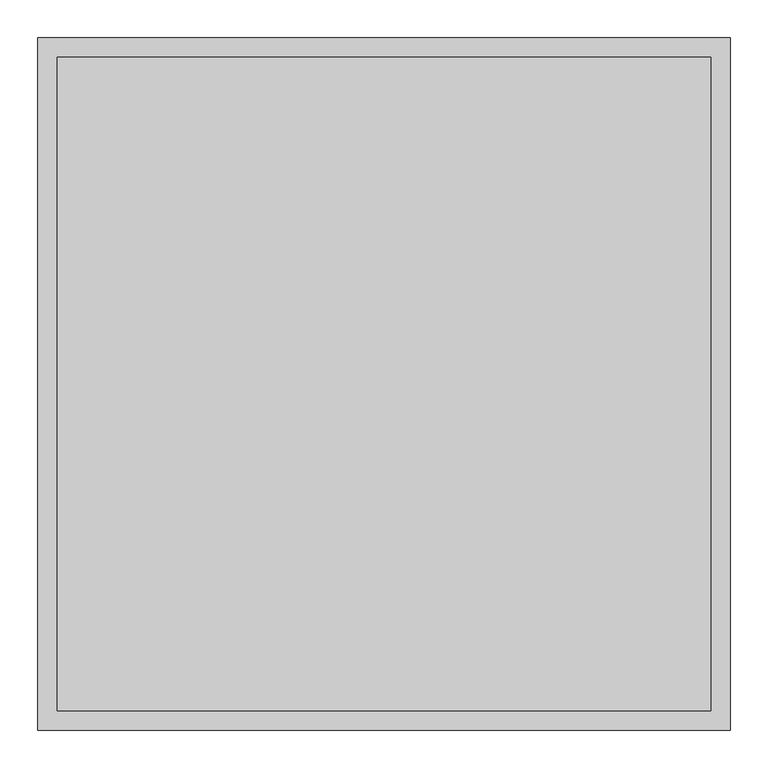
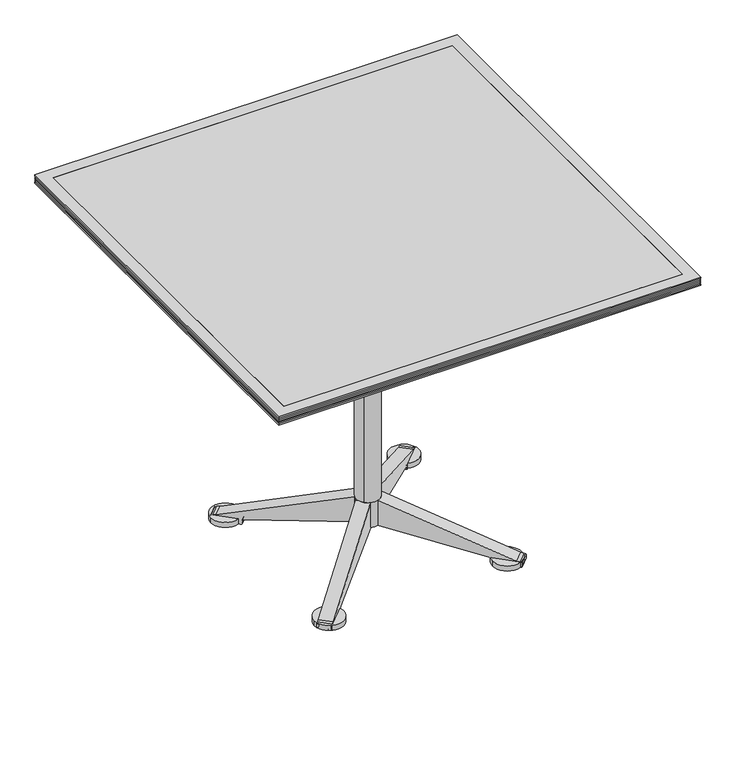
"""IFC4 building model written with IfcOpenShell, lengths in millimetres: furniture geometry, Coalesse_AM_Table_Conference_Ballet_Square : 36L x 36W - Flip/Glide."""

import ifcopenshell
import ifcopenshell.guid

model = None  # the IFC model being written
_history = None  # IfcOwnerHistory: only IFC2X3 demands one
_inside = {}  # id of a spatial element -> (the spatial element, [elements in it])
_under = {}  # id of a project, library or spatial element -> (it, [spatial elements below it])
_declared = {}  # id of a project -> (the project, [libraries it declares])
_typed = {}  # id of a type object -> (the type object, [elements of that type])
_made_of = {}  # id of a material, layer set ... -> (it, [elements and type objects made of it])


def new_model(schema):
    """Start an empty IFC model of exactly this schema.

    Asked for "IFC4X3", IfcOpenShell would pick the latest addendum, in which some entities
    have other attributes; the version numbers below select the first issue.
    IFC2X3 requires an IfcOwnerHistory on every rooted entity: one is made here for all.
    """
    global model, _history
    if schema == "IFC4X3":
        model = ifcopenshell.file(schema_version=(4, 3, 0, 0))
    else:
        model = ifcopenshell.file(schema=schema)
    _inside.clear()
    _under.clear()
    _declared.clear()
    _typed.clear()
    _made_of.clear()
    _history = None
    if model.schema == "IFC2X3":
        org = make("IfcOrganization", Name="unknown")
        user = make(
            "IfcPersonAndOrganization",
            ThePerson=make("IfcPerson", FamilyName="unknown"),
            TheOrganization=org,
        )
        app = make(
            "IfcApplication",
            ApplicationDeveloper=org,
            Version="unknown",
            ApplicationFullName="unknown",
            ApplicationIdentifier="unknown",
        )
        _history = make(
            "IfcOwnerHistory",
            OwningUser=user,
            OwningApplication=app,
            ChangeAction="ADDED",
            CreationDate=0,
        )
    return model


def make(cls, **values):
    """One entity of the class cls with the attributes given. An attribute that is None is left unset."""
    return model.create_entity(
        cls, **{name: value for name, value in values.items() if value is not None}
    )


def rooted(cls, **values):
    """An entity with a GlobalId (a new one), such as an element, a storey or a relation."""
    return make(cls, GlobalId=ifcopenshell.guid.new(), OwnerHistory=_history, **values)


def si_unit(unit_type, name, prefix=None):
    """IfcSIUnit, for example si_unit("LENGTHUNIT", "METRE", prefix="MILLI")."""
    return make("IfcSIUnit", UnitType=unit_type, Prefix=prefix, Name=name)


def assignment(units):
    """IfcUnitAssignment: the units of a project."""
    return None if units is None else make("IfcUnitAssignment", Units=units)


def point(xyz):
    """IfcCartesianPoint."""
    return None if xyz is None else make("IfcCartesianPoint", Coordinates=xyz)


def direction(xyz):
    """IfcDirection."""
    return None if xyz is None else make("IfcDirection", DirectionRatios=xyz)


def frame(location, z_axis=None, x_axis=None):
    """IfcAxis2Placement3D, a coordinate frame: its origin and axes. An axis left out is left unset."""
    return make(
        "IfcAxis2Placement3D",
        Location=point(location),
        Axis=direction(z_axis),
        RefDirection=direction(x_axis),
    )


def frame_2d(location, x_axis=None):
    """IfcAxis2Placement2D, a coordinate frame in the plane: its origin and x axis."""
    return make(
        "IfcAxis2Placement2D", Location=point(location), RefDirection=direction(x_axis)
    )


def origin():
    """The frame at (0, 0, 0) with its axes left unset."""
    return frame((0.0, 0.0, 0.0))


def origin_with_axes():
    """The frame at (0, 0, 0) with the z axis (0, 0, 1) and the x axis (1, 0, 0) written out."""
    return frame((0.0, 0.0, 0.0), z_axis=(0.0, 0.0, 1.0), x_axis=(1.0, 0.0, 0.0))


def place(relative_to, where):
    """IfcLocalPlacement: puts the frame where relative to a parent placement (None: the world)."""
    return make(
        "IfcLocalPlacement", PlacementRelTo=relative_to, RelativePlacement=where
    )


def context(
    kind, dimensions, precision=None, world=None, true_north=None, identifier=None
):
    """IfcGeometricRepresentationContext, for example the 3D "Model" context."""
    return make(
        "IfcGeometricRepresentationContext",
        ContextIdentifier=identifier,
        ContextType=kind,
        CoordinateSpaceDimension=dimensions,
        Precision=precision,
        WorldCoordinateSystem=world,
        TrueNorth=true_north,
    )


def project(units=None, contexts=None):
    """IfcProject with its units and contexts."""
    return rooted(
        "IfcProject",
        Name="project",
        RepresentationContexts=contexts,
        UnitsInContext=assignment(units),
    )


def spatial(cls, under=None, at=None, **own):
    """A site, building, storey or space (cls), placed at a placement, below another one or the project."""
    s = rooted(cls, ObjectPlacement=at, **own)
    if under is not None:
        _under.setdefault(under.id(), (under, []))[1].append(s)
    return s


def polyline(points):
    """IfcPolyline through the points."""
    return make("IfcPolyline", Points=[point(p) for p in points])


def circle_curve(where, radius):
    """IfcCircle in the frame where."""
    return make("IfcCircle", Position=where, Radius=radius)


def trimmed(basis, trim1, trim2, sense, master):
    """IfcTrimmedCurve: the piece of a basis curve between two trims."""
    return make(
        "IfcTrimmedCurve",
        BasisCurve=basis,
        Trim1=trim1,
        Trim2=trim2,
        SenseAgreement=sense,
        MasterRepresentation=master,
    )


def segment(curve, same_sense, transition):
    """IfcCompositeCurveSegment."""
    return make(
        "IfcCompositeCurveSegment",
        Transition=transition,
        SameSense=same_sense,
        ParentCurve=curve,
    )


def composite_curve(segments, self_intersect=None):
    """IfcCompositeCurve: segments joined end to end."""
    return make("IfcCompositeCurve", Segments=segments, SelfIntersect=self_intersect)


def outline(outer, holes=None, kind="AREA"):
    """IfcArbitraryClosedProfileDef: a profile drawn as a closed curve; with holes, ...WithVoids."""
    if holes is None:
        return make("IfcArbitraryClosedProfileDef", ProfileType=kind, OuterCurve=outer)
    return make(
        "IfcArbitraryProfileDefWithVoids",
        ProfileType=kind,
        OuterCurve=outer,
        InnerCurves=holes,
    )


def extrude(swept, where, along, depth):
    """IfcExtrudedAreaSolid: the profile swept, set in the frame where, extruded along a direction by depth."""
    return make(
        "IfcExtrudedAreaSolid",
        SweptArea=swept,
        Position=where,
        ExtrudedDirection=direction(along),
        Depth=depth,
    )


def faces_of(points, faces, orient=None, outer=None):
    """IfcFace entities. A face is a list of loops; a loop is a list of indices into points, from 0.

    orient and outer hold one flag for each loop. By default every Orientation is true, the
    first loop of a face is its IfcFaceOuterBound and the others are IfcFaceBound.
    """
    made = []
    for i, loops in enumerate(faces):
        bounds = []
        for j, loop in enumerate(loops):
            is_outer = j == 0 if outer is None else outer[i][j]
            bounds.append(
                make(
                    "IfcFaceOuterBound" if is_outer else "IfcFaceBound",
                    Bound=make("IfcPolyLoop", Polygon=[points[k] for k in loop]),
                    Orientation=True if orient is None else orient[i][j],
                )
            )
        made.append(make("IfcFace", Bounds=bounds))
    return made


def faceted_brep(points, faces, orient=None, outer=None, voids=None):
    """IfcFacetedBrep: a solid bounded by flat faces; with voids (closed shells), ...WithVoids."""
    shared = [point(p) for p in points]
    hull = make("IfcClosedShell", CfsFaces=faces_of(shared, faces, orient, outer))
    if voids is None:
        return make("IfcFacetedBrep", Outer=hull)
    return make(
        "IfcFacetedBrepWithVoids",
        Outer=hull,
        Voids=[
            make(cls, CfsFaces=faces_of(shared, fs, o, b)) for cls, fs, o, b in voids
        ],
    )


def shape(context_of_items, identifier, shape_type, items):
    """IfcShapeRepresentation: the items that make up one representation, for example the "Body"."""
    return make(
        "IfcShapeRepresentation",
        ContextOfItems=context_of_items,
        RepresentationIdentifier=identifier,
        RepresentationType=shape_type,
        Items=items,
    )


def source(mapping_origin, context_of_items, identifier, shape_type, items):
    """IfcRepresentationMap: a shape defined once, which mapped items show again and again."""
    return make(
        "IfcRepresentationMap",
        MappingOrigin=mapping_origin,
        MappedRepresentation=shape(context_of_items, identifier, shape_type, items),
    )


def transform(
    local_origin,
    x_axis=None,
    y_axis=None,
    z_axis=None,
    scale=None,
    scale2=None,
    scale3=None,
    uniform=True,
):
    """IfcCartesianTransformationOperator3D, or its non-uniform kind. x_axis, y_axis, z_axis: its Axis1, 2, 3."""
    if uniform:
        return make(
            "IfcCartesianTransformationOperator3D",
            Axis1=direction(x_axis),
            Axis2=direction(y_axis),
            LocalOrigin=point(local_origin),
            Scale=scale,
            Axis3=direction(z_axis),
        )
    return make(
        "IfcCartesianTransformationOperator3DnonUniform",
        Axis1=direction(x_axis),
        Axis2=direction(y_axis),
        LocalOrigin=point(local_origin),
        Scale=scale,
        Axis3=direction(z_axis),
        Scale2=scale2,
        Scale3=scale3,
    )


def mapped(mapping_source, mapping_target):
    """IfcMappedItem: shows the shape of a source again, moved by a transform."""
    return make(
        "IfcMappedItem", MappingSource=mapping_source, MappingTarget=mapping_target
    )


def made_of(thing, what):
    """Note that an element or type object is made of a material, layer set ...; save() writes the relation."""
    if what is not None:
        _made_of.setdefault(what.id(), (what, []))[1].append(thing)
    return thing


def element(
    cls,
    number,
    at=None,
    inside=None,
    cuts=None,
    type_object=None,
    material=None,
    context=None,
    identifier="Body",
    shape_type=None,
    held_by="IfcProductDefinitionShape",
    body=None,
    shapes=None,
    **own,
):
    """One element of the class cls, such as IfcWall. Its Tag is "e" and its number.

    at: its placement. inside: the storey or other place that contains it. cuts: it is an
    opening in that element (IfcRelVoidsElement). A single representation is given by context,
    identifier, shape_type and body (its items); several are given by shapes. held_by: the class
    of the entity that holds the representations. save() writes the other relations.
    """
    e = rooted(cls, Tag="e%d" % number, ObjectPlacement=at, **own)
    if body is not None:
        shapes = [shape(context, identifier, shape_type, body)]
    if shapes is not None:
        e.Representation = make(held_by, Representations=shapes)
    if inside is not None:
        _inside.setdefault(inside.id(), (inside, []))[1].append(e)
    if cuts is not None:
        rooted(
            "IfcRelVoidsElement", RelatingBuildingElement=cuts, RelatedOpeningElement=e
        )
    if type_object is not None:
        _typed.setdefault(type_object.id(), (type_object, []))[1].append(e)
    return made_of(e, material)


def aggregate(whole, parts):
    """IfcRelAggregates: a whole, such as a stair, and the parts it consists of."""
    return rooted("IfcRelAggregates", RelatingObject=whole, RelatedObjects=parts)


def save(model, path):
    """Write the relations noted so far, then the file.

    IfcRelAggregates (storeys below a building ...), IfcRelContainedInSpatialStructure (elements
    in a storey), IfcRelDefinesByType, IfcRelAssociatesMaterial and IfcRelDeclares: one each for
    every whole, place, type object, material and project.
    """
    for whole, parts in _under.values():
        aggregate(whole, parts)
    for where, things in _inside.values():
        rooted(
            "IfcRelContainedInSpatialStructure",
            RelatedElements=things,
            RelatingStructure=where,
        )
    for kind, things in _typed.values():
        rooted("IfcRelDefinesByType", RelatedObjects=things, RelatingType=kind)
    for what, things in _made_of.values():
        rooted("IfcRelAssociatesMaterial", RelatedObjects=things, RelatingMaterial=what)
    for by, libraries in _declared.values():
        rooted("IfcRelDeclares", RelatingContext=by, RelatedDefinitions=libraries)
    model.write(path)


def furniture_6a61a7a8(model_context):
    return source(origin(), model_context, "Body", "SolidModel", [
        extrude(outline(composite_curve([segment(trimmed(circle_curve(frame_2d((-194.715793, 197.3207687)), 31.75), [point((-226.465793, 197.3207687))], [point((-162.965793, 197.3207687))], False, "CARTESIAN"), True, "CONTINUOUS"), segment(trimmed(circle_curve(frame_2d((-194.715793, 197.3207687)), 31.75), [point((-162.965793, 197.3207687))], [point((-226.465793, 197.3207687))], False, "CARTESIAN"), True, "CONTINUOUS")], self_intersect=False)), frame((0.0, 0.0, 4.2904479), z_axis=(0.0, 0.0, 1.0), x_axis=(1.0, 0.0, 0.0)), (0.0, 0.0, 1.0), 11.3833531),
        extrude(outline(composite_curve([segment(trimmed(circle_curve(frame_2d((191.7194605, 196.5270187)), 31.75), [point((159.9694605, 196.5270187))], [point((223.4694605, 196.5270187))], False, "CARTESIAN"), True, "CONTINUOUS"), segment(trimmed(circle_curve(frame_2d((191.7194605, 196.5270187)), 31.75), [point((223.4694605, 196.5270187))], [point((159.9694605, 196.5270187))], False, "CARTESIAN"), True, "CONTINUOUS")], self_intersect=False)), frame((0.0, 0.0, 4.2904479), z_axis=(0.0, 0.0, 1.0), x_axis=(1.0, 0.0, 0.0)), (0.0, 0.0, 1.0), 11.3833531),
        extrude(outline(composite_curve([segment(trimmed(circle_curve(frame_2d((-194.715793, -191.2787692)), 31.75), [point((-226.465793, -191.2787692))], [point((-162.965793, -191.2787692))], False, "CARTESIAN"), True, "CONTINUOUS"), segment(trimmed(circle_curve(frame_2d((-194.715793, -191.2787692)), 31.75), [point((-162.965793, -191.2787692))], [point((-226.465793, -191.2787692))], False, "CARTESIAN"), True, "CONTINUOUS")], self_intersect=False)), frame((0.0, 0.0, 4.2904479), z_axis=(0.0, 0.0, 1.0), x_axis=(1.0, 0.0, 0.0)), (0.0, 0.0, 1.0), 11.3833531),
        extrude(outline(composite_curve([segment(trimmed(circle_curve(frame_2d((191.7194605, -190.4850192)), 31.75), [point((159.9694605, -190.4850192))], [point((223.4694605, -190.4850192))], False, "CARTESIAN"), True, "CONTINUOUS"), segment(trimmed(circle_curve(frame_2d((191.7194605, -190.4850192)), 31.75), [point((223.4694605, -190.4850192))], [point((159.9694605, -190.4850192))], False, "CARTESIAN"), True, "CONTINUOUS")], self_intersect=False)), frame((0.0, 0.0, 4.2904479), z_axis=(0.0, 0.0, 1.0), x_axis=(1.0, 0.0, 0.0)), (0.0, 0.0, 1.0), 11.3833531),
        extrude(outline(composite_curve([segment(polyline([(-57.749273, 0.0), (0.0, 0.0), (-90.9931074, -269.8641919), (-92.3030079, -279.1846177)]), True, "CONTINUOUS"), segment(trimmed(circle_curve(frame_2d((-93.9206951, -278.9572666)), 1.6335852), [point((-92.3030079, -279.1846177))], [point((-93.8206014, -280.5877823))], False, "CARTESIAN"), True, "CONTINUOUS"), segment(trimmed(circle_curve(frame_2d((-95.8523928, -247.4901147)), 33.1599725), [point((-93.8206014, -280.5877823))], [point((-101.682402, -280.1335639))], False, "CARTESIAN"), True, "CONTINUOUS"), segment(trimmed(circle_curve(frame_2d((-101.2796868, -277.8786768)), 2.2905666), [point((-101.682402, -280.1335639))], [point((-103.5674671, -277.7657306))], False, "CARTESIAN"), True, "CONTINUOUS"), segment(polyline([(-103.5674671, -277.7657306), (-103.5674671, -222.4322812)]), True, "CONTINUOUS"), segment(trimmed(circle_curve(frame_2d((-100.6154331, -221.9840334)), 2.9858719), [point((-103.5674671, -222.4322812))], [point((-100.2998684, -219.0148838))], False, "CARTESIAN"), True, "CONTINUOUS"), segment(trimmed(circle_curve(frame_2d((-98.3053249, -200.2482144)), 18.872363), [point((-100.2998684, -219.0148838))], [point((-94.5016021, -218.7332835))], True, "CARTESIAN"), True, "CONTINUOUS"), segment(trimmed(circle_curve(frame_2d((-95.1495986, -215.5841949)), 3.2150673), [point((-94.5016021, -218.7332835))], [point((-91.9741141, -216.0871422))], True, "CARTESIAN"), True, "CONTINUOUS"), segment(polyline([(-91.9741141, -216.0871422), (-57.749273, 0.0)]), True, "CONTINUOUS")], self_intersect=False)), frame((-23.5273141, 7.7834997, 107.857915), z_axis=(0.7071067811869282, 0.707106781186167, 0.0), x_axis=(0.0, 0.0, 1.0)), (0.0, 0.0, 1.0), 29.2174476),
        extrude(outline(composite_curve([segment(polyline([(-57.749273, 44.2801775), (-91.9741141, 260.3673198)]), True, "CONTINUOUS"), segment(trimmed(circle_curve(frame_2d((-95.1495986, 259.8643724)), 3.2150673), [point((-91.9741141, 260.3673198))], [point((-94.5016021, 263.013461))], True, "CARTESIAN"), True, "CONTINUOUS"), segment(trimmed(circle_curve(frame_2d((-98.3053249, 244.5283919)), 18.872363), [point((-94.5016021, 263.013461))], [point((-100.2998684, 263.2950613))], True, "CARTESIAN"), True, "CONTINUOUS"), segment(trimmed(circle_curve(frame_2d((-100.6154331, 266.2642109)), 2.9858719), [point((-100.2998684, 263.2950613))], [point((-103.5674671, 266.7124587))], False, "CARTESIAN"), True, "CONTINUOUS"), segment(polyline([(-103.5674671, 266.7124587), (-103.5674671, 322.0459081)]), True, "CONTINUOUS"), segment(trimmed(circle_curve(frame_2d((-101.2796868, 322.1588543)), 2.2905666), [point((-103.5674671, 322.0459081))], [point((-101.682402, 324.4137415))], False, "CARTESIAN"), True, "CONTINUOUS"), segment(trimmed(circle_curve(frame_2d((-95.8523928, 291.7702923)), 33.1599725), [point((-101.682402, 324.4137415))], [point((-93.8206014, 324.8679598))], False, "CARTESIAN"), True, "CONTINUOUS"), segment(trimmed(circle_curve(frame_2d((-93.9206951, 323.2374442)), 1.6335852), [point((-93.8206014, 324.8679598))], [point((-92.3030079, 323.4647953))], False, "CARTESIAN"), True, "CONTINUOUS"), segment(polyline([(-92.3030079, 323.4647953), (-90.9931074, 314.1443694), (0.0, 44.2801775), (-57.749273, 44.2801775)]), True, "CONTINUOUS")], self_intersect=False)), frame((-23.5273141, 7.7834997, 107.857915), z_axis=(0.7071067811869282, 0.707106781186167, 0.0), x_axis=(0.0, 0.0, 1.0)), (0.0, 0.0, 1.0), 29.2174476),
        extrude(outline(composite_curve([segment(polyline([(-57.749273, 0.0), (0.0, 0.0), (-90.9931074, -269.8641919), (-92.3030079, -279.1846177)]), True, "CONTINUOUS"), segment(trimmed(circle_curve(frame_2d((-93.9206951, -278.9572666)), 1.6335852), [point((-92.3030079, -279.1846177))], [point((-93.8206014, -280.5877823))], False, "CARTESIAN"), True, "CONTINUOUS"), segment(trimmed(circle_curve(frame_2d((-95.8523928, -247.4901147)), 33.1599725), [point((-93.8206014, -280.5877823))], [point((-101.682402, -280.1335639))], False, "CARTESIAN"), True, "CONTINUOUS"), segment(trimmed(circle_curve(frame_2d((-101.2796868, -277.8786768)), 2.2905666), [point((-101.682402, -280.1335639))], [point((-103.5674671, -277.7657306))], False, "CARTESIAN"), True, "CONTINUOUS"), segment(polyline([(-103.5674671, -277.7657306), (-103.5674671, -222.4322812)]), True, "CONTINUOUS"), segment(trimmed(circle_curve(frame_2d((-100.6154331, -221.9840334)), 2.9858719), [point((-103.5674671, -222.4322812))], [point((-100.2998684, -219.0148838))], False, "CARTESIAN"), True, "CONTINUOUS"), segment(trimmed(circle_curve(frame_2d((-98.3053249, -200.2482144)), 18.872363), [point((-100.2998684, -219.0148838))], [point((-94.5016021, -218.7332835))], True, "CARTESIAN"), True, "CONTINUOUS"), segment(trimmed(circle_curve(frame_2d((-95.1495986, -215.5841949)), 3.2150673), [point((-94.5016021, -218.7332835))], [point((-91.9741141, -216.0871422))], True, "CARTESIAN"), True, "CONTINUOUS"), segment(polyline([(-91.9741141, -216.0871422), (-57.749273, 0.0)]), True, "CONTINUOUS")], self_intersect=False)), frame((-7.7834997, -23.5273141, 107.857915), z_axis=(-0.7071067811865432, 0.7071067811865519, 0.0), x_axis=(0.0, 0.0, 1.0)), (0.0, 0.0, 1.0), 29.2174476),
        extrude(outline(composite_curve([segment(polyline([(-57.749273, 44.2801775), (-91.9741141, 260.3673198)]), True, "CONTINUOUS"), segment(trimmed(circle_curve(frame_2d((-95.1495986, 259.8643724)), 3.2150673), [point((-91.9741141, 260.3673198))], [point((-94.5016021, 263.013461))], True, "CARTESIAN"), True, "CONTINUOUS"), segment(trimmed(circle_curve(frame_2d((-98.3053249, 244.5283919)), 18.872363), [point((-94.5016021, 263.013461))], [point((-100.2998684, 263.2950613))], True, "CARTESIAN"), True, "CONTINUOUS"), segment(trimmed(circle_curve(frame_2d((-100.6154331, 266.2642109)), 2.9858719), [point((-100.2998684, 263.2950613))], [point((-103.5674671, 266.7124587))], False, "CARTESIAN"), True, "CONTINUOUS"), segment(polyline([(-103.5674671, 266.7124587), (-103.5674671, 322.0459081)]), True, "CONTINUOUS"), segment(trimmed(circle_curve(frame_2d((-101.2796868, 322.1588543)), 2.2905666), [point((-103.5674671, 322.0459081))], [point((-101.682402, 324.4137415))], False, "CARTESIAN"), True, "CONTINUOUS"), segment(trimmed(circle_curve(frame_2d((-95.8523928, 291.7702923)), 33.1599725), [point((-101.682402, 324.4137415))], [point((-93.8206014, 324.8679598))], False, "CARTESIAN"), True, "CONTINUOUS"), segment(trimmed(circle_curve(frame_2d((-93.9206951, 323.2374442)), 1.6335852), [point((-93.8206014, 324.8679598))], [point((-92.3030079, 323.4647953))], False, "CARTESIAN"), True, "CONTINUOUS"), segment(polyline([(-92.3030079, 323.4647953), (-90.9931074, 314.1443694), (0.0, 44.2801775), (-57.749273, 44.2801775)]), True, "CONTINUOUS")], self_intersect=False)), frame((-7.7834997, -23.5273141, 107.857915), z_axis=(-0.7071067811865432, 0.7071067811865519, 0.0), x_axis=(0.0, 0.0, 1.0)), (0.0, 0.0, 1.0), 29.2174476),
        extrude(outline(composite_curve([segment(polyline([(-57.749273, 0.0), (0.0, 0.0), (-90.9931074, -269.8641919), (-92.3030079, -279.1846177)]), True, "CONTINUOUS"), segment(trimmed(circle_curve(frame_2d((-93.9206951, -278.9572666)), 1.6335852), [point((-92.3030079, -279.1846177))], [point((-93.8206014, -280.5877823))], False, "CARTESIAN"), True, "CONTINUOUS"), segment(trimmed(circle_curve(frame_2d((-95.8523928, -247.4901147)), 33.1599725), [point((-93.8206014, -280.5877823))], [point((-101.682402, -280.1335639))], False, "CARTESIAN"), True, "CONTINUOUS"), segment(trimmed(circle_curve(frame_2d((-101.2796868, -277.8786768)), 2.2905666), [point((-101.682402, -280.1335639))], [point((-103.5674671, -277.7657306))], False, "CARTESIAN"), True, "CONTINUOUS"), segment(polyline([(-103.5674671, -277.7657306), (-103.5674671, -222.4322812)]), True, "CONTINUOUS"), segment(trimmed(circle_curve(frame_2d((-100.6154331, -221.9840334)), 2.9858719), [point((-103.5674671, -222.4322812))], [point((-100.2998684, -219.0148838))], False, "CARTESIAN"), True, "CONTINUOUS"), segment(trimmed(circle_curve(frame_2d((-98.3053249, -200.2482144)), 18.872363), [point((-100.2998684, -219.0148838))], [point((-94.5016021, -218.7332835))], True, "CARTESIAN"), True, "CONTINUOUS"), segment(trimmed(circle_curve(frame_2d((-95.1495986, -215.5841949)), 3.2150673), [point((-94.5016021, -218.7332835))], [point((-91.9741141, -216.0871422))], True, "CARTESIAN"), True, "CONTINUOUS"), segment(polyline([(-91.9741141, -216.0871422), (-57.749273, 0.0)]), True, "CONTINUOUS")], self_intersect=False)), frame((-23.5273141, 7.7834997, 107.857915), z_axis=(0.7071067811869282, 0.707106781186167, 0.0), x_axis=(0.0, 0.0, 1.0)), (0.0, 0.0, 1.0), 29.2174476),
        extrude(outline(composite_curve([segment(polyline([(-57.749273, 44.2801775), (-91.9741141, 260.3673198)]), True, "CONTINUOUS"), segment(trimmed(circle_curve(frame_2d((-95.1495986, 259.8643724)), 3.2150673), [point((-91.9741141, 260.3673198))], [point((-94.5016021, 263.013461))], True, "CARTESIAN"), True, "CONTINUOUS"), segment(trimmed(circle_curve(frame_2d((-98.3053249, 244.5283919)), 18.872363), [point((-94.5016021, 263.013461))], [point((-100.2998684, 263.2950613))], True, "CARTESIAN"), True, "CONTINUOUS"), segment(trimmed(circle_curve(frame_2d((-100.6154331, 266.2642109)), 2.9858719), [point((-100.2998684, 263.2950613))], [point((-103.5674671, 266.7124587))], False, "CARTESIAN"), True, "CONTINUOUS"), segment(polyline([(-103.5674671, 266.7124587), (-103.5674671, 322.0459081)]), True, "CONTINUOUS"), segment(trimmed(circle_curve(frame_2d((-101.2796868, 322.1588543)), 2.2905666), [point((-103.5674671, 322.0459081))], [point((-101.682402, 324.4137415))], False, "CARTESIAN"), True, "CONTINUOUS"), segment(trimmed(circle_curve(frame_2d((-95.8523928, 291.7702923)), 33.1599725), [point((-101.682402, 324.4137415))], [point((-93.8206014, 324.8679598))], False, "CARTESIAN"), True, "CONTINUOUS"), segment(trimmed(circle_curve(frame_2d((-93.9206951, 323.2374442)), 1.6335852), [point((-93.8206014, 324.8679598))], [point((-92.3030079, 323.4647953))], False, "CARTESIAN"), True, "CONTINUOUS"), segment(polyline([(-92.3030079, 323.4647953), (-90.9931074, 314.1443694), (0.0, 44.2801775), (-57.749273, 44.2801775)]), True, "CONTINUOUS")], self_intersect=False)), frame((-23.5273141, 7.7834997, 107.857915), z_axis=(0.7071067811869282, 0.707106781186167, 0.0), x_axis=(0.0, 0.0, 1.0)), (0.0, 0.0, 1.0), 29.2174476),
        extrude(outline(composite_curve([segment(polyline([(-57.749273, 0.0), (0.0, 0.0), (-90.9931074, -269.8641919), (-92.3030079, -279.1846177)]), True, "CONTINUOUS"), segment(trimmed(circle_curve(frame_2d((-93.9206951, -278.9572666)), 1.6335852), [point((-92.3030079, -279.1846177))], [point((-93.8206014, -280.5877823))], False, "CARTESIAN"), True, "CONTINUOUS"), segment(trimmed(circle_curve(frame_2d((-95.8523928, -247.4901147)), 33.1599725), [point((-93.8206014, -280.5877823))], [point((-101.682402, -280.1335639))], False, "CARTESIAN"), True, "CONTINUOUS"), segment(trimmed(circle_curve(frame_2d((-101.2796868, -277.8786768)), 2.2905666), [point((-101.682402, -280.1335639))], [point((-103.5674671, -277.7657306))], False, "CARTESIAN"), True, "CONTINUOUS"), segment(polyline([(-103.5674671, -277.7657306), (-103.5674671, -222.4322812)]), True, "CONTINUOUS"), segment(trimmed(circle_curve(frame_2d((-100.6154331, -221.9840334)), 2.9858719), [point((-103.5674671, -222.4322812))], [point((-100.2998684, -219.0148838))], False, "CARTESIAN"), True, "CONTINUOUS"), segment(trimmed(circle_curve(frame_2d((-98.3053249, -200.2482144)), 18.872363), [point((-100.2998684, -219.0148838))], [point((-94.5016021, -218.7332835))], True, "CARTESIAN"), True, "CONTINUOUS"), segment(trimmed(circle_curve(frame_2d((-95.1495986, -215.5841949)), 3.2150673), [point((-94.5016021, -218.7332835))], [point((-91.9741141, -216.0871422))], True, "CARTESIAN"), True, "CONTINUOUS"), segment(polyline([(-91.9741141, -216.0871422), (-57.749273, 0.0)]), True, "CONTINUOUS")], self_intersect=False)), frame((-7.7834997, -23.5273141, 107.857915), z_axis=(-0.7071067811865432, 0.7071067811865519, 0.0), x_axis=(0.0, 0.0, 1.0)), (0.0, 0.0, 1.0), 29.2174476),
        extrude(outline(composite_curve([segment(polyline([(-57.749273, 44.2801775), (-91.9741141, 260.3673198)]), True, "CONTINUOUS"), segment(trimmed(circle_curve(frame_2d((-95.1495986, 259.8643724)), 3.2150673), [point((-91.9741141, 260.3673198))], [point((-94.5016021, 263.013461))], True, "CARTESIAN"), True, "CONTINUOUS"), segment(trimmed(circle_curve(frame_2d((-98.3053249, 244.5283919)), 18.872363), [point((-94.5016021, 263.013461))], [point((-100.2998684, 263.2950613))], True, "CARTESIAN"), True, "CONTINUOUS"), segment(trimmed(circle_curve(frame_2d((-100.6154331, 266.2642109)), 2.9858719), [point((-100.2998684, 263.2950613))], [point((-103.5674671, 266.7124587))], False, "CARTESIAN"), True, "CONTINUOUS"), segment(polyline([(-103.5674671, 266.7124587), (-103.5674671, 322.0459081)]), True, "CONTINUOUS"), segment(trimmed(circle_curve(frame_2d((-101.2796868, 322.1588543)), 2.2905666), [point((-103.5674671, 322.0459081))], [point((-101.682402, 324.4137415))], False, "CARTESIAN"), True, "CONTINUOUS"), segment(trimmed(circle_curve(frame_2d((-95.8523928, 291.7702923)), 33.1599725), [point((-101.682402, 324.4137415))], [point((-93.8206014, 324.8679598))], False, "CARTESIAN"), True, "CONTINUOUS"), segment(trimmed(circle_curve(frame_2d((-93.9206951, 323.2374442)), 1.6335852), [point((-93.8206014, 324.8679598))], [point((-92.3030079, 323.4647953))], False, "CARTESIAN"), True, "CONTINUOUS"), segment(polyline([(-92.3030079, 323.4647953), (-90.9931074, 314.1443694), (0.0, 44.2801775), (-57.749273, 44.2801775)]), True, "CONTINUOUS")], self_intersect=False)), frame((-7.7834997, -23.5273141, 107.857915), z_axis=(-0.7071067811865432, 0.7071067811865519, 0.0), x_axis=(0.0, 0.0, 1.0)), (0.0, 0.0, 1.0), 29.2174476),
        extrude(outline(composite_curve([segment(trimmed(circle_curve(frame_2d((1.04e-05, -1.04e-05)), 25.3999999), [point((-17.9605018, -17.9605225))], [point((17.9605225, 17.9605018))], False, "CARTESIAN"), True, "CONTINUOUS"), segment(trimmed(circle_curve(frame_2d((1.04e-05, -1.04e-05)), 25.3999999), [point((17.9605225, 17.9605018))], [point((-17.9605018, -17.9605225))], False, "CARTESIAN"), True, "CONTINUOUS")], self_intersect=False)), frame((0.0, 0.0, 607.6784119), z_axis=(0.0, 0.0, 1.0), x_axis=(1.0, 0.0, 0.0)), (0.0, 0.0, 1.0), 50.3081696),
        extrude(outline(polyline([(158.4621346, 17.0356733), (169.8930132, 8.1048922), (169.8930132, 0.8331186), (159.98106, -9.0788345), (38.5409959, -9.0788345), (28.462086, 1.0000754), (28.462086, 7.6856478), (37.8121114, 17.0356733), (158.4621346, 17.0356733)])), frame((0.0, 0.0, 687.2912849), z_axis=(0.0, 0.0, 1.0), x_axis=(1.0, 0.0, 0.0)), (0.0, 0.0, 1.0), 6.5168503),
        extrude(outline(composite_curve([segment(trimmed(circle_curve(frame_2d((669.1002966, -84.2761543)), 7.8975043), [point((669.1002966, -92.1736586))], [point((669.1002966, -76.3786501))], False, "CARTESIAN"), True, "CONTINUOUS"), segment(trimmed(circle_curve(frame_2d((669.1002966, -84.2761543)), 7.8975043), [point((669.1002966, -76.3786501))], [point((669.1002966, -92.1736586))], False, "CARTESIAN"), True, "CONTINUOUS")], self_intersect=False)), frame((0.0, -102.0227757, 0.0), z_axis=(0.0, 1.0, 0.0), x_axis=(0.0, 0.0, 1.0)), (0.0, 0.0, 1.0), 207.3263413),
        extrude(outline(polyline([(77.1619615, -102.0227757), (72.7168839, -102.0227757), (72.7168839, 105.3035655), (77.1619615, 105.3035655), (77.1619615, -102.0227757)])), frame((0.0, 0.0, 657.9865814), z_axis=(0.0, 0.0, 1.0), x_axis=(1.0, 0.0, 0.0)), (0.0, 0.0, 1.0), 25.6753708),
        extrude(outline(polyline([(105.3035655, 652.7037643), (101.8153095, 652.7037643), (101.8153095, 700.0114872), (-94.3997971, 700.0114872), (-94.3997971, 652.7037643), (-97.8879563, 652.7037643), (-97.8879563, 704.85), (105.3035655, 704.85), (105.3035655, 652.7037643)])), frame((-111.7977681, 0.0, 0.0), z_axis=(1.0, 0.0, 0.0), x_axis=(0.0, 1.0, 0.0)), (0.0, 0.0, 1.0), 220.3746008),
        extrude(outline(polyline([(-91.8596905, 688.7419716), (99.2752998, 688.7419716), (99.2752998, 652.7037643), (94.1954742, 652.7037643), (94.1954742, 683.6619522), (-86.7795016, 683.6619522), (-86.7795016, 652.7037643), (-91.8596905, 652.7037643), (-91.8596905, 688.7419716)])), frame((-111.7977681, 0.0, 0.0), z_axis=(1.0, 0.0, 0.0), x_axis=(0.0, 1.0, 0.0)), (0.0, 0.0, 1.0), 220.3746008),
        extrude(outline(composite_curve([segment(trimmed(circle_curve(frame_2d((1.04e-05, -1.04e-05)), 25.3999999), [point((-17.9605018, -17.9605225))], [point((17.9605225, 17.9605018))], False, "CARTESIAN"), True, "CONTINUOUS"), segment(trimmed(circle_curve(frame_2d((1.04e-05, -1.04e-05)), 25.3999999), [point((17.9605225, 17.9605018))], [point((-17.9605018, -17.9605225))], False, "CARTESIAN"), True, "CONTINUOUS")], self_intersect=False)), frame((0.0, 0.0, 107.857915), z_axis=(0.0, 0.0, 1.0), x_axis=(1.0, 0.0, 0.0)), (0.0, 0.0, 1.0), 499.8204968),
        extrude(outline(composite_curve([segment(trimmed(circle_curve(frame_2d((192.2336051, -190.6461051)), 25.4), [point((174.2730929, -208.6066174))], [point((210.1941174, -172.6855929))], False, "CARTESIAN"), True, "CONTINUOUS"), segment(trimmed(circle_curve(frame_2d((192.2336051, -190.6461051)), 25.4), [point((210.1941174, -172.6855929))], [point((174.2730929, -208.6066174))], False, "CARTESIAN"), True, "CONTINUOUS")], self_intersect=False)), origin_with_axes(), (0.0, 0.0, 1.0), 4.2904479),
        extrude(outline(composite_curve([segment(trimmed(circle_curve(frame_2d((192.2336051, 196.9961051)), 25.4), [point((174.2730929, 179.0355929))], [point((210.1941174, 214.9566174))], False, "CARTESIAN"), True, "CONTINUOUS"), segment(trimmed(circle_curve(frame_2d((192.2336051, 196.9961051)), 25.4), [point((210.1941174, 214.9566174))], [point((174.2730929, 179.0355929))], False, "CARTESIAN"), True, "CONTINUOUS")], self_intersect=False)), origin_with_axes(), (0.0, 0.0, 1.0), 4.2904479),
        extrude(outline(composite_curve([segment(trimmed(circle_curve(frame_2d((-194.6148551, -191.4398551)), 25.4), [point((-212.5753674, -209.4003674))], [point((-176.6543429, -173.4793429))], False, "CARTESIAN"), True, "CONTINUOUS"), segment(trimmed(circle_curve(frame_2d((-194.6148551, -191.4398551)), 25.4), [point((-176.6543429, -173.4793429))], [point((-212.5753674, -209.4003674))], False, "CARTESIAN"), True, "CONTINUOUS")], self_intersect=False)), origin_with_axes(), (0.0, 0.0, 1.0), 4.2904479),
        extrude(outline(composite_curve([segment(trimmed(circle_curve(frame_2d((-194.2179801, 197.3929801)), 25.4), [point((-212.1784924, 179.4324679))], [point((-176.2574679, 215.3534924))], False, "CARTESIAN"), True, "CONTINUOUS"), segment(trimmed(circle_curve(frame_2d((-194.2179801, 197.3929801)), 25.4), [point((-176.2574679, 215.3534924))], [point((-212.1784924, 179.4324679))], False, "CARTESIAN"), True, "CONTINUOUS")], self_intersect=False)), origin_with_axes(), (0.0, 0.0, 1.0), 4.2904479),
        extrude(outline(composite_curve([segment(trimmed(circle_curve(frame_2d((1.04e-05, -1.04e-05)), 25.3999999), [point((-17.9605018, -17.9605225))], [point((17.9605225, 17.9605018))], False, "CARTESIAN"), True, "CONTINUOUS"), segment(trimmed(circle_curve(frame_2d((1.04e-05, -1.04e-05)), 25.3999999), [point((17.9605225, 17.9605018))], [point((-17.9605018, -17.9605225))], False, "CARTESIAN"), True, "CONTINUOUS")], self_intersect=False)), frame((0.0, 0.0, 50.8000015), z_axis=(0.0, 0.0, 1.0), x_axis=(1.0, 0.0, 0.0)), (0.0, 0.0, 1.0), 556.8784104),
        faceted_brep([(-457.2003633, 457.2, 704.85), (-431.8003876, 431.8000242, 698.5000242), (-431.8003876, -431.7999516, 698.5000242), (-457.2003633, -457.1999273, 704.85), (-457.2003633, 457.2, 708.0250242), (-457.2003633, -457.1999273, 708.0250242), (-454.0253755, 454.0250121, 709.6125), (-454.0253755, -454.0249394, 709.6125), (-457.2003633, 457.2, 711.1999758), (-457.2003633, -457.1999273, 711.1999758), (-454.0253755, 454.0250121, 712.7875242), (-454.0253755, -454.0249394, 712.7875242), (-457.2003633, 457.2, 714.375), (-457.2003633, -457.1999273, 714.375), (-454.0253755, 454.0250121, 715.9624758), (-454.0253755, -454.0249394, 715.9624758), (-457.2003633, 457.2, 717.5500242), (-457.2003633, -457.1999273, 717.5500242), (-454.0253755, 454.0250121, 719.1375), (-454.0253755, -454.0249394, 719.1375), (-457.2003633, 457.2, 720.7249758), (-457.2003633, -457.1999273, 720.7249758), (-457.2003633, 457.2, 723.9), (-457.2003633, -457.1999273, 723.9), (-431.8003876, 431.8000242, 723.9), (-431.8003876, -431.7999516, 723.9), (431.7998062, -431.7999516, 698.5000242), (457.199782, -457.1999273, 704.85), (457.199782, -457.1999273, 708.0250242), (454.0247941, -454.0249394, 709.6125), (457.199782, -457.1999273, 711.1999758), (454.0247941, -454.0249394, 712.7875242), (457.199782, -457.1999273, 714.375), (454.0247941, -454.0249394, 715.9624758), (457.199782, -457.1999273, 717.5500242), (454.0247941, -454.0249394, 719.1375), (457.199782, -457.1999273, 720.7249758), (457.199782, -457.1999273, 723.9), (431.7998062, -431.7999516, 723.9), (431.7998062, 431.8000242, 698.5000242), (457.199782, 457.2, 704.85), (457.199782, 457.2, 708.0250242), (454.0247941, 454.0250121, 709.6125), (457.199782, 457.2, 711.1999758), (454.0247941, 454.0250121, 712.7875242), (457.199782, 457.2, 714.375), (454.0247941, 454.0250121, 715.9624758), (457.199782, 457.2, 717.5500242), (454.0247941, 454.0250121, 719.1375), (457.199782, 457.2, 720.7249758), (457.199782, 457.2, 723.9), (431.7998062, 431.8000242, 723.9)], [[[0, 1, 2, 3]], [[4, 0, 3, 5]], [[6, 4, 5, 7]], [[8, 6, 7, 9]], [[10, 8, 9, 11]], [[12, 10, 11, 13]], [[14, 12, 13, 15]], [[16, 14, 15, 17]], [[18, 16, 17, 19]], [[20, 18, 19, 21]], [[22, 20, 21, 23]], [[1, 24, 25, 2]], [[3, 2, 26, 27]], [[5, 3, 27, 28]], [[7, 5, 28, 29]], [[9, 7, 29, 30]], [[11, 9, 30, 31]], [[13, 11, 31, 32]], [[15, 13, 32, 33]], [[17, 15, 33, 34]], [[19, 17, 34, 35]], [[21, 19, 35, 36]], [[23, 21, 36, 37]], [[2, 25, 38, 26]], [[27, 26, 39, 40]], [[28, 27, 40, 41]], [[29, 28, 41, 42]], [[30, 29, 42, 43]], [[31, 30, 43, 44]], [[32, 31, 44, 45]], [[33, 32, 45, 46]], [[34, 33, 46, 47]], [[35, 34, 47, 48]], [[36, 35, 48, 49]], [[37, 36, 49, 50]], [[26, 38, 51, 39]], [[40, 39, 1, 0]], [[41, 40, 0, 4]], [[42, 41, 4, 6]], [[43, 42, 6, 8]], [[44, 43, 8, 10]], [[45, 44, 10, 12]], [[46, 45, 12, 14]], [[47, 46, 14, 16]], [[48, 47, 16, 18]], [[49, 48, 18, 20]], [[50, 49, 20, 22]], [[23, 37, 50, 22], [24, 51, 38, 25]], [[39, 51, 24, 1]]]),
        extrude(outline(polyline([(431.7998062, 431.8000242), (431.7998062, -431.7999516), (-431.8003876, -431.7999516), (-431.8003876, 431.8000242), (431.7998062, 431.8000242)])), frame((0.0, 0.0, 704.85), z_axis=(0.0, 0.0, 1.0), x_axis=(1.0, 0.0, 0.0)), (0.0, 0.0, 1.0), 19.05),
    ])


if __name__ == "__main__":
    model = new_model("IFC4")
    model_context = context("Model", 3, world=origin())
    ifc_project = project(units=[si_unit("LENGTHUNIT", "METRE", prefix="MILLI")], contexts=[model_context])
    site = spatial("IfcSite", under=ifc_project)
    building = spatial("IfcBuilding", under=site)
    placement = place(None, origin())
    furniture_shape = furniture_6a61a7a8(model_context)
    element("IfcFurniture", 1, ObjectType="Coalesse_AM_Table_Conference_Ballet_Square : 36L x 36W - Flip/Glide", at=placement, inside=building, context=model_context, shape_type="MappedRepresentation", body=[
        mapped(furniture_shape, transform((0.0, 0.0, 0.0), x_axis=(1.0, 0.0, 0.0), y_axis=(0.0, 1.0, 0.0), z_axis=(0.0, 0.0, 1.0))),
    ])
    save(model, "model.ifc")
